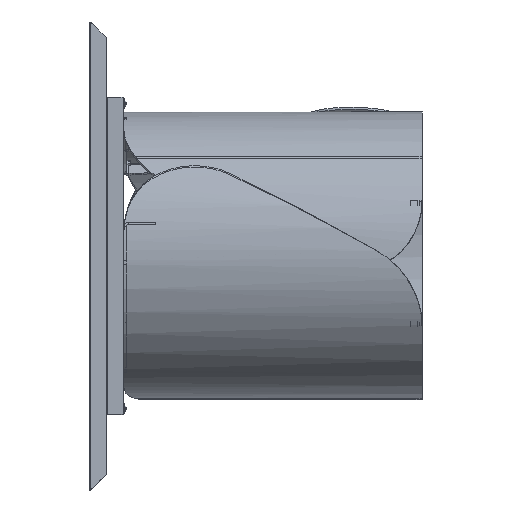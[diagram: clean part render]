
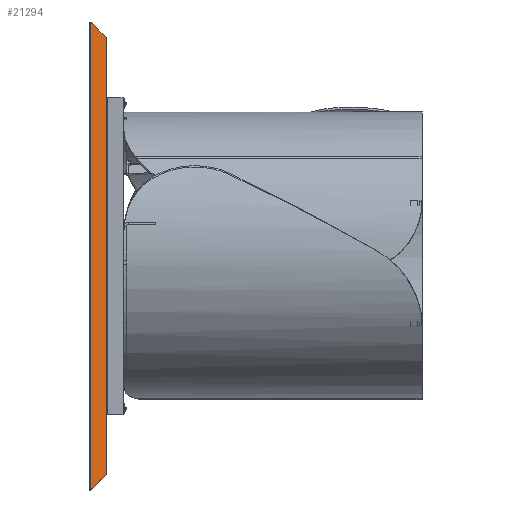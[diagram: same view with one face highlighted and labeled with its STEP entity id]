
A CAD part, left-side view. The second image highlights one B-rep face of the part: STEP entity #21294.
In plain terms, the highlighted planar face has unit normal (-0.707, -0.707, 0).
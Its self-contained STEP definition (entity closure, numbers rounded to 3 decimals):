
#469 = DIRECTION ( 'NONE',  ( 0., 0., 1. ) ) ;
#952 = EDGE_CURVE ( 'NONE', #17956, #10638, #21106, .T. ) ;
#1989 =( BOUNDED_CURVE ( )  B_SPLINE_CURVE ( 3, ( #18795, #9826, #5891, #20971 ),
 .UNSPECIFIED., .F., .F. ) 
 B_SPLINE_CURVE_WITH_KNOTS ( ( 4, 4 ),
 ( 2.356, 3.142 ),
 .UNSPECIFIED. ) 
 CURVE ( )  GEOMETRIC_REPRESENTATION_ITEM ( )  RATIONAL_B_SPLINE_CURVE ( ( 1., 0.949, 0.949, 1. ) ) 
 REPRESENTATION_ITEM ( '' )  );
#2003 = CARTESIAN_POINT ( 'NONE',  ( -965.293, 0.293, 495.293 ) ) ;
#2543 = LINE ( 'NONE', #13496, #13082 ) ;
#2768 = ORIENTED_EDGE ( 'NONE', *, *, #10746, .T. ) ;
#3188 = LINE ( 'NONE', #15717, #10447 ) ;
#3216 = VECTOR ( 'NONE', #11659, 1000. ) ;
#3321 = CARTESIAN_POINT ( 'NONE',  ( -965.293, 0.293, 495. ) ) ;
#4640 = AXIS2_PLACEMENT_3D ( 'NONE', #14398, #16442, #469 ) ;
#5355 = LINE ( 'NONE', #3321, #16500 ) ;
#5418 = CARTESIAN_POINT ( 'NONE',  ( -1000., 35., -525. ) ) ;
#5625 = VERTEX_POINT ( 'NONE', #10779 ) ;
#5891 = CARTESIAN_POINT ( 'NONE',  ( -1000., 35., 526.344 ) ) ;
#7528 = ORIENTED_EDGE ( 'NONE', *, *, #18801, .T. ) ;
#8361 = ORIENTED_EDGE ( 'NONE', *, *, #23063, .F. ) ;
#9083 = CARTESIAN_POINT ( 'NONE',  ( -1000., 35., -525. ) ) ;
#9826 = CARTESIAN_POINT ( 'NONE',  ( -999.486, 34.486, 527.585 ) ) ;
#10211 = CARTESIAN_POINT ( 'NONE',  ( -1000., 35., -530. ) ) ;
#10447 = VECTOR ( 'NONE', #19459, 1000. ) ;
#10638 = VERTEX_POINT ( 'NONE', #22872 ) ;
#10746 = EDGE_CURVE ( 'NONE', #22730, #23371, #5355, .T. ) ;
#10779 = CARTESIAN_POINT ( 'NONE',  ( -998.536, 33.536, -528.536 ) ) ;
#11163 = CARTESIAN_POINT ( 'NONE',  ( -998.536, 33.536, -528.536 ) ) ;
#11306 = ORIENTED_EDGE ( 'NONE', *, *, #20418, .T. ) ;
#11659 = DIRECTION ( 'NONE',  ( 0., 0., 1. ) ) ;
#12980 = CARTESIAN_POINT ( 'NONE',  ( -999.486, 34.486, -527.585 ) ) ;
#13082 = VECTOR ( 'NONE', #17257, 1000. ) ;
#13496 = CARTESIAN_POINT ( 'NONE',  ( -1000., 35., -530. ) ) ;
#13708 = ORIENTED_EDGE ( 'NONE', *, *, #21460, .T. ) ;
#14398 = CARTESIAN_POINT ( 'NONE',  ( -1000., 35., -530. ) ) ;
#14639 = CARTESIAN_POINT ( 'NONE',  ( -965.293, 0.293, -495.293 ) ) ;
#14754 = FACE_OUTER_BOUND ( 'NONE', #23407, .T. ) ;
#14810 = CARTESIAN_POINT ( 'NONE',  ( -1000., 35., -526.344 ) ) ;
#15717 = CARTESIAN_POINT ( 'NONE',  ( -646.667, -318.333, 176.667 ) ) ;
#16442 = DIRECTION ( 'NONE',  ( 0.707, 0.707, 0. ) ) ;
#16500 = VECTOR ( 'NONE', #20193, 1000. ) ;
#17013 = PLANE ( 'NONE',  #4640 ) ;
#17257 = DIRECTION ( 'NONE',  ( 0.577, -0.577, 0.577 ) ) ;
#17365 =( BOUNDED_CURVE ( )  B_SPLINE_CURVE ( 3, ( #5418, #14810, #12980, #11163 ),
 .UNSPECIFIED., .F., .F. ) 
 B_SPLINE_CURVE_WITH_KNOTS ( ( 4, 4 ),
 ( 3.142, 3.927 ),
 .UNSPECIFIED. ) 
 CURVE ( )  GEOMETRIC_REPRESENTATION_ITEM ( )  RATIONAL_B_SPLINE_CURVE ( ( 1., 0.949, 0.949, 1. ) ) 
 REPRESENTATION_ITEM ( '' )  );
#17956 = VERTEX_POINT ( 'NONE', #9083 ) ;
#18795 = CARTESIAN_POINT ( 'NONE',  ( -998.536, 33.536, 528.536 ) ) ;
#18801 = EDGE_CURVE ( 'NONE', #17956, #5625, #17365, .T. ) ;
#19459 = DIRECTION ( 'NONE',  ( 0.577, -0.577, -0.577 ) ) ;
#19788 = CARTESIAN_POINT ( 'NONE',  ( -998.536, 33.536, 528.536 ) ) ;
#20193 = DIRECTION ( 'NONE',  ( 0., 0., 1. ) ) ;
#20418 = EDGE_CURVE ( 'NONE', #21566, #10638, #1989, .T. ) ;
#20971 = CARTESIAN_POINT ( 'NONE',  ( -1000., 35., 525. ) ) ;
#21106 = LINE ( 'NONE', #10211, #3216 ) ;
#21294 = ADVANCED_FACE ( 'NONE', ( #14754 ), #17013, .F. ) ;
#21460 = EDGE_CURVE ( 'NONE', #5625, #22730, #2543, .T. ) ;
#21566 = VERTEX_POINT ( 'NONE', #19788 ) ;
#22304 = ORIENTED_EDGE ( 'NONE', *, *, #952, .F. ) ;
#22730 = VERTEX_POINT ( 'NONE', #14639 ) ;
#22872 = CARTESIAN_POINT ( 'NONE',  ( -1000., 35., 525. ) ) ;
#23063 = EDGE_CURVE ( 'NONE', #21566, #23371, #3188, .T. ) ;
#23371 = VERTEX_POINT ( 'NONE', #2003 ) ;
#23407 = EDGE_LOOP ( 'NONE', ( #13708, #2768, #8361, #11306, #22304, #7528 ) ) ;
